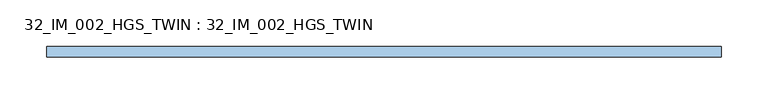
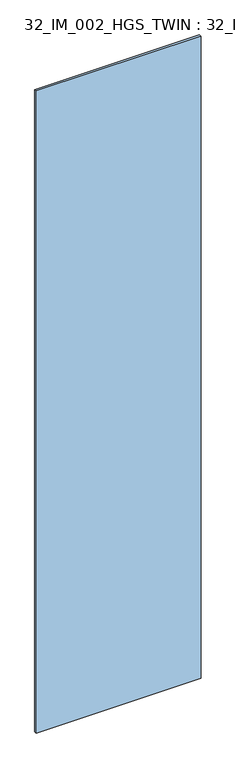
"""IFC4 building model written with IfcOpenShell, lengths in millimetres: window geometry, 32_IM_002_HGS_TWIN : 32_IM_002_HGS_TWIN."""

from ifc_helpers import new_model, si_unit, origin, origin_with_axes, place, context, project, spatial, polyline, outline, extrude, source, transform, mapped, element, save


def window_32_im_002_hgs_twin_32_im_002_hgs_twin_0d112f5a(model_context):
    return source(origin(), model_context, "Body", "SweptSolid", [
        extrude(outline(polyline([(359.25, -5.4), (-359.25, -5.4), (-359.25, 5.4), (359.25, 5.4), (359.25, -5.4)])), origin_with_axes(), (0.0, 0.0, 1.0), 2956.0),
    ])


if __name__ == "__main__":
    model = new_model("IFC4")
    model_context = context("Model", 3, world=origin())
    ifc_project = project(units=[si_unit("LENGTHUNIT", "METRE", prefix="MILLI")], contexts=[model_context])
    site = spatial("IfcSite", under=ifc_project)
    building = spatial("IfcBuilding", under=site)
    placement = place(None, origin())
    window_32_im_002_hgs_twin_32_im_002_hgs_twin_shape = window_32_im_002_hgs_twin_32_im_002_hgs_twin_0d112f5a(model_context)
    element("IfcWindow", 1, ObjectType="32_IM_002_HGS_TWIN : 32_IM_002_HGS_TWIN", at=placement, inside=building, context=model_context, shape_type="MappedRepresentation", body=[
        mapped(window_32_im_002_hgs_twin_32_im_002_hgs_twin_shape, transform((0.0, 0.0, 0.0), x_axis=(1.0, 0.0, 0.0), y_axis=(0.0, 1.0, 0.0), z_axis=(0.0, 0.0, 1.0))),
    ])
    save(model, "model.ifc")
